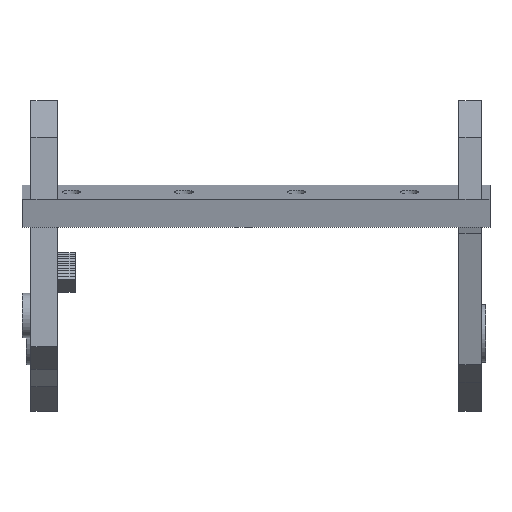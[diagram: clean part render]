
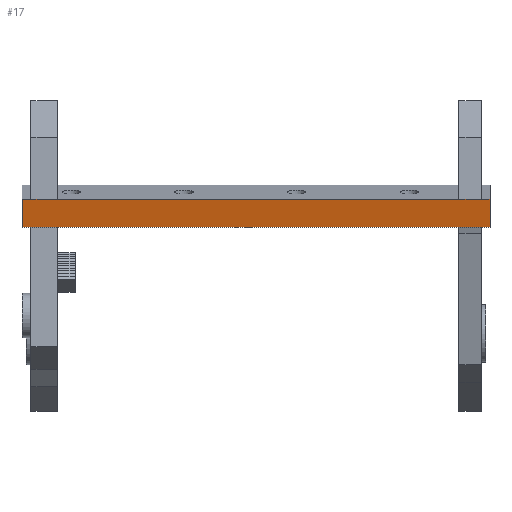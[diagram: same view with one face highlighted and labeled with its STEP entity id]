
A CAD part, left-side view. The second image highlights one B-rep face of the part: STEP entity #17.
In plain terms, the highlighted planar face has unit normal (-0.976, 0, -0.216).
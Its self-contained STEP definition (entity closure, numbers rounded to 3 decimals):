
#17 = ADVANCED_FACE('',(#18),#32,.F.);
#18 = FACE_BOUND('',#19,.F.);
#19 = EDGE_LOOP('',(#20,#55,#83,#111,#139,#167,#195,#223));
#20 = ORIENTED_EDGE('',*,*,#21,.F.);
#21 = EDGE_CURVE('',#22,#24,#26,.T.);
#22 = VERTEX_POINT('',#23);
#23 = CARTESIAN_POINT('',(-4.063,-103.8,-191.308));
#24 = VERTEX_POINT('',#25);
#25 = CARTESIAN_POINT('',(-6.877,-103.8,-178.617));
#26 = SURFACE_CURVE('',#27,(#31,#43),.PCURVE_S1.);
#27 = LINE('',#28,#29);
#28 = CARTESIAN_POINT('',(-4.063,-103.8,-191.308));
#29 = VECTOR('',#30,1.);
#30 = DIRECTION('',(-0.216,0.,0.976));
#31 = PCURVE('',#32,#37);
#32 = PLANE('',#33);
#33 = AXIS2_PLACEMENT_3D('',#34,#35,#36);
#34 = CARTESIAN_POINT('',(-4.929,-103.8,-187.403));
#35 = DIRECTION('',(0.976,0.,0.216));
#36 = DIRECTION('',(-0.216,0.,0.976));
#37 = DEFINITIONAL_REPRESENTATION('',(#38),#42);
#38 = LINE('',#39,#40);
#39 = CARTESIAN_POINT('',(-4.,0.));
#40 = VECTOR('',#41,1.);
#41 = DIRECTION('',(1.,0.));
#42 = ( GEOMETRIC_REPRESENTATION_CONTEXT(2) 
PARAMETRIC_REPRESENTATION_CONTEXT() REPRESENTATION_CONTEXT('2D SPACE',''
  ) );
#43 = PCURVE('',#44,#49);
#44 = PLANE('',#45);
#45 = AXIS2_PLACEMENT_3D('',#46,#47,#48);
#46 = CARTESIAN_POINT('',(-4.929,-103.8,-187.403));
#47 = DIRECTION('',(0.,1.,0.));
#48 = DIRECTION('',(-0.216,0.,0.976));
#49 = DEFINITIONAL_REPRESENTATION('',(#50),#54);
#50 = LINE('',#51,#52);
#51 = CARTESIAN_POINT('',(-4.,0.));
#52 = VECTOR('',#53,1.);
#53 = DIRECTION('',(1.,0.));
#54 = ( GEOMETRIC_REPRESENTATION_CONTEXT(2) 
PARAMETRIC_REPRESENTATION_CONTEXT() REPRESENTATION_CONTEXT('2D SPACE',''
  ) );
#55 = ORIENTED_EDGE('',*,*,#56,.T.);
#56 = EDGE_CURVE('',#22,#57,#59,.T.);
#57 = VERTEX_POINT('',#58);
#58 = CARTESIAN_POINT('',(-4.063,107.2,-191.308));
#59 = SURFACE_CURVE('',#60,(#64,#71),.PCURVE_S1.);
#60 = LINE('',#61,#62);
#61 = CARTESIAN_POINT('',(-4.063,-103.8,-191.308));
#62 = VECTOR('',#63,1.);
#63 = DIRECTION('',(0.,1.,0.));
#64 = PCURVE('',#32,#65);
#65 = DEFINITIONAL_REPRESENTATION('',(#66),#70);
#66 = LINE('',#67,#68);
#67 = CARTESIAN_POINT('',(-4.,0.));
#68 = VECTOR('',#69,1.);
#69 = DIRECTION('',(0.,-1.));
#70 = ( GEOMETRIC_REPRESENTATION_CONTEXT(2) 
PARAMETRIC_REPRESENTATION_CONTEXT() REPRESENTATION_CONTEXT('2D SPACE',''
  ) );
#71 = PCURVE('',#72,#77);
#72 = PLANE('',#73);
#73 = AXIS2_PLACEMENT_3D('',#74,#75,#76);
#74 = CARTESIAN_POINT('',(-4.063,-103.8,-191.308));
#75 = DIRECTION('',(-0.216,0.,0.976));
#76 = DIRECTION('',(0.976,0.,0.216));
#77 = DEFINITIONAL_REPRESENTATION('',(#78),#82);
#78 = LINE('',#79,#80);
#79 = CARTESIAN_POINT('',(0.,0.));
#80 = VECTOR('',#81,1.);
#81 = DIRECTION('',(0.,1.));
#82 = ( GEOMETRIC_REPRESENTATION_CONTEXT(2) 
PARAMETRIC_REPRESENTATION_CONTEXT() REPRESENTATION_CONTEXT('2D SPACE',''
  ) );
#83 = ORIENTED_EDGE('',*,*,#84,.F.);
#84 = EDGE_CURVE('',#85,#57,#87,.T.);
#85 = VERTEX_POINT('',#86);
#86 = CARTESIAN_POINT('',(-6.877,107.2,-178.617));
#87 = SURFACE_CURVE('',#88,(#92,#99),.PCURVE_S1.);
#88 = LINE('',#89,#90);
#89 = CARTESIAN_POINT('',(-6.877,107.2,-178.617));
#90 = VECTOR('',#91,1.);
#91 = DIRECTION('',(0.216,0.,-0.976));
#92 = PCURVE('',#32,#93);
#93 = DEFINITIONAL_REPRESENTATION('',(#94),#98);
#94 = LINE('',#95,#96);
#95 = CARTESIAN_POINT('',(9.,-211.));
#96 = VECTOR('',#97,1.);
#97 = DIRECTION('',(-1.,0.));
#98 = ( GEOMETRIC_REPRESENTATION_CONTEXT(2) 
PARAMETRIC_REPRESENTATION_CONTEXT() REPRESENTATION_CONTEXT('2D SPACE',''
  ) );
#99 = PCURVE('',#100,#105);
#100 = PLANE('',#101);
#101 = AXIS2_PLACEMENT_3D('',#102,#103,#104);
#102 = CARTESIAN_POINT('',(-4.929,107.2,-187.403));
#103 = DIRECTION('',(0.,1.,0.));
#104 = DIRECTION('',(-0.216,0.,0.976));
#105 = DEFINITIONAL_REPRESENTATION('',(#106),#110);
#106 = LINE('',#107,#108);
#107 = CARTESIAN_POINT('',(9.,0.));
#108 = VECTOR('',#109,1.);
#109 = DIRECTION('',(-1.,0.));
#110 = ( GEOMETRIC_REPRESENTATION_CONTEXT(2) 
PARAMETRIC_REPRESENTATION_CONTEXT() REPRESENTATION_CONTEXT('2D SPACE',''
  ) );
#111 = ORIENTED_EDGE('',*,*,#112,.F.);
#112 = EDGE_CURVE('',#113,#85,#115,.T.);
#113 = VERTEX_POINT('',#114);
#114 = CARTESIAN_POINT('',(-6.877,103.2,-178.617));
#115 = SURFACE_CURVE('',#116,(#120,#127),.PCURVE_S1.);
#116 = LINE('',#117,#118);
#117 = CARTESIAN_POINT('',(-6.877,-103.8,-178.617));
#118 = VECTOR('',#119,1.);
#119 = DIRECTION('',(0.,1.,0.));
#120 = PCURVE('',#32,#121);
#121 = DEFINITIONAL_REPRESENTATION('',(#122),#126);
#122 = LINE('',#123,#124);
#123 = CARTESIAN_POINT('',(9.,0.));
#124 = VECTOR('',#125,1.);
#125 = DIRECTION('',(0.,-1.));
#126 = ( GEOMETRIC_REPRESENTATION_CONTEXT(2) 
PARAMETRIC_REPRESENTATION_CONTEXT() REPRESENTATION_CONTEXT('2D SPACE',''
  ) );
#127 = PCURVE('',#128,#133);
#128 = PLANE('',#129);
#129 = AXIS2_PLACEMENT_3D('',#130,#131,#132);
#130 = CARTESIAN_POINT('',(-6.877,-103.8,-178.617));
#131 = DIRECTION('',(-0.216,0.,0.976));
#132 = DIRECTION('',(0.976,0.,0.216));
#133 = DEFINITIONAL_REPRESENTATION('',(#134),#138);
#134 = LINE('',#135,#136);
#135 = CARTESIAN_POINT('',(0.,0.));
#136 = VECTOR('',#137,1.);
#137 = DIRECTION('',(0.,1.));
#138 = ( GEOMETRIC_REPRESENTATION_CONTEXT(2) 
PARAMETRIC_REPRESENTATION_CONTEXT() REPRESENTATION_CONTEXT('2D SPACE',''
  ) );
#139 = ORIENTED_EDGE('',*,*,#140,.F.);
#140 = EDGE_CURVE('',#141,#113,#143,.T.);
#141 = VERTEX_POINT('',#142);
#142 = CARTESIAN_POINT('',(-6.877,91.2,-178.617));
#143 = SURFACE_CURVE('',#144,(#148,#155),.PCURVE_S1.);
#144 = LINE('',#145,#146);
#145 = CARTESIAN_POINT('',(-6.877,91.2,-178.617));
#146 = VECTOR('',#147,1.);
#147 = DIRECTION('',(-0.,1.,-0.));
#148 = PCURVE('',#32,#149);
#149 = DEFINITIONAL_REPRESENTATION('',(#150),#154);
#150 = LINE('',#151,#152);
#151 = CARTESIAN_POINT('',(9.,-195.));
#152 = VECTOR('',#153,1.);
#153 = DIRECTION('',(0.,-1.));
#154 = ( GEOMETRIC_REPRESENTATION_CONTEXT(2) 
PARAMETRIC_REPRESENTATION_CONTEXT() REPRESENTATION_CONTEXT('2D SPACE',''
  ) );
#155 = PCURVE('',#156,#161);
#156 = PLANE('',#157);
#157 = AXIS2_PLACEMENT_3D('',#158,#159,#160);
#158 = CARTESIAN_POINT('',(-6.877,91.2,-178.617));
#159 = DIRECTION('',(1.,0.,-0.));
#160 = DIRECTION('',(0.,0.,1.));
#161 = DEFINITIONAL_REPRESENTATION('',(#162),#166);
#162 = LINE('',#163,#164);
#163 = CARTESIAN_POINT('',(0.,0.));
#164 = VECTOR('',#165,1.);
#165 = DIRECTION('',(0.,-1.));
#166 = ( GEOMETRIC_REPRESENTATION_CONTEXT(2) 
PARAMETRIC_REPRESENTATION_CONTEXT() REPRESENTATION_CONTEXT('2D SPACE',''
  ) );
#167 = ORIENTED_EDGE('',*,*,#168,.F.);
#168 = EDGE_CURVE('',#169,#141,#171,.T.);
#169 = VERTEX_POINT('',#170);
#170 = CARTESIAN_POINT('',(-6.877,-89.8,-178.617));
#171 = SURFACE_CURVE('',#172,(#176,#183),.PCURVE_S1.);
#172 = LINE('',#173,#174);
#173 = CARTESIAN_POINT('',(-6.877,-103.8,-178.617));
#174 = VECTOR('',#175,1.);
#175 = DIRECTION('',(0.,1.,0.));
#176 = PCURVE('',#32,#177);
#177 = DEFINITIONAL_REPRESENTATION('',(#178),#182);
#178 = LINE('',#179,#180);
#179 = CARTESIAN_POINT('',(9.,0.));
#180 = VECTOR('',#181,1.);
#181 = DIRECTION('',(0.,-1.));
#182 = ( GEOMETRIC_REPRESENTATION_CONTEXT(2) 
PARAMETRIC_REPRESENTATION_CONTEXT() REPRESENTATION_CONTEXT('2D SPACE',''
  ) );
#183 = PCURVE('',#184,#189);
#184 = PLANE('',#185);
#185 = AXIS2_PLACEMENT_3D('',#186,#187,#188);
#186 = CARTESIAN_POINT('',(-6.877,-103.8,-178.617));
#187 = DIRECTION('',(-0.216,0.,0.976));
#188 = DIRECTION('',(0.976,0.,0.216));
#189 = DEFINITIONAL_REPRESENTATION('',(#190),#194);
#190 = LINE('',#191,#192);
#191 = CARTESIAN_POINT('',(0.,0.));
#192 = VECTOR('',#193,1.);
#193 = DIRECTION('',(0.,1.));
#194 = ( GEOMETRIC_REPRESENTATION_CONTEXT(2) 
PARAMETRIC_REPRESENTATION_CONTEXT() REPRESENTATION_CONTEXT('2D SPACE',''
  ) );
#195 = ORIENTED_EDGE('',*,*,#196,.F.);
#196 = EDGE_CURVE('',#197,#169,#199,.T.);
#197 = VERTEX_POINT('',#198);
#198 = CARTESIAN_POINT('',(-6.877,-99.8,-178.617));
#199 = SURFACE_CURVE('',#200,(#204,#211),.PCURVE_S1.);
#200 = LINE('',#201,#202);
#201 = CARTESIAN_POINT('',(-6.877,-99.8,-178.617));
#202 = VECTOR('',#203,1.);
#203 = DIRECTION('',(-0.,1.,-0.));
#204 = PCURVE('',#32,#205);
#205 = DEFINITIONAL_REPRESENTATION('',(#206),#210);
#206 = LINE('',#207,#208);
#207 = CARTESIAN_POINT('',(9.,-4.));
#208 = VECTOR('',#209,1.);
#209 = DIRECTION('',(0.,-1.));
#210 = ( GEOMETRIC_REPRESENTATION_CONTEXT(2) 
PARAMETRIC_REPRESENTATION_CONTEXT() REPRESENTATION_CONTEXT('2D SPACE',''
  ) );
#211 = PCURVE('',#212,#217);
#212 = PLANE('',#213);
#213 = AXIS2_PLACEMENT_3D('',#214,#215,#216);
#214 = CARTESIAN_POINT('',(-6.877,-99.8,-178.617));
#215 = DIRECTION('',(1.,0.,-0.));
#216 = DIRECTION('',(0.,0.,1.));
#217 = DEFINITIONAL_REPRESENTATION('',(#218),#222);
#218 = LINE('',#219,#220);
#219 = CARTESIAN_POINT('',(0.,0.));
#220 = VECTOR('',#221,1.);
#221 = DIRECTION('',(0.,-1.));
#222 = ( GEOMETRIC_REPRESENTATION_CONTEXT(2) 
PARAMETRIC_REPRESENTATION_CONTEXT() REPRESENTATION_CONTEXT('2D SPACE',''
  ) );
#223 = ORIENTED_EDGE('',*,*,#224,.F.);
#224 = EDGE_CURVE('',#24,#197,#225,.T.);
#225 = SURFACE_CURVE('',#226,(#230,#237),.PCURVE_S1.);
#226 = LINE('',#227,#228);
#227 = CARTESIAN_POINT('',(-6.877,-103.8,-178.617));
#228 = VECTOR('',#229,1.);
#229 = DIRECTION('',(0.,1.,0.));
#230 = PCURVE('',#32,#231);
#231 = DEFINITIONAL_REPRESENTATION('',(#232),#236);
#232 = LINE('',#233,#234);
#233 = CARTESIAN_POINT('',(9.,0.));
#234 = VECTOR('',#235,1.);
#235 = DIRECTION('',(0.,-1.));
#236 = ( GEOMETRIC_REPRESENTATION_CONTEXT(2) 
PARAMETRIC_REPRESENTATION_CONTEXT() REPRESENTATION_CONTEXT('2D SPACE',''
  ) );
#237 = PCURVE('',#238,#243);
#238 = PLANE('',#239);
#239 = AXIS2_PLACEMENT_3D('',#240,#241,#242);
#240 = CARTESIAN_POINT('',(-6.877,-103.8,-178.617));
#241 = DIRECTION('',(-0.216,0.,0.976));
#242 = DIRECTION('',(0.976,0.,0.216));
#243 = DEFINITIONAL_REPRESENTATION('',(#244),#248);
#244 = LINE('',#245,#246);
#245 = CARTESIAN_POINT('',(0.,0.));
#246 = VECTOR('',#247,1.);
#247 = DIRECTION('',(0.,1.));
#248 = ( GEOMETRIC_REPRESENTATION_CONTEXT(2) 
PARAMETRIC_REPRESENTATION_CONTEXT() REPRESENTATION_CONTEXT('2D SPACE',''
  ) );
